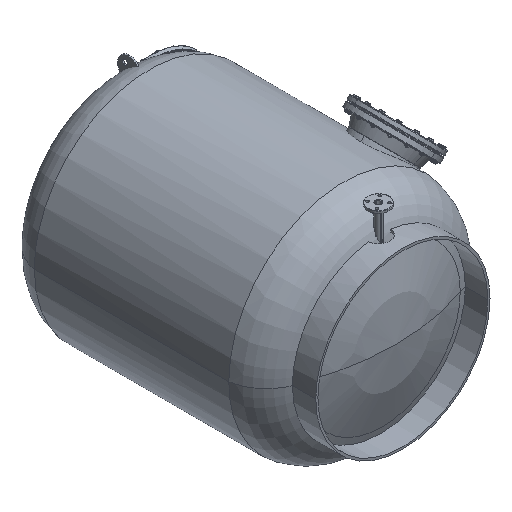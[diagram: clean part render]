
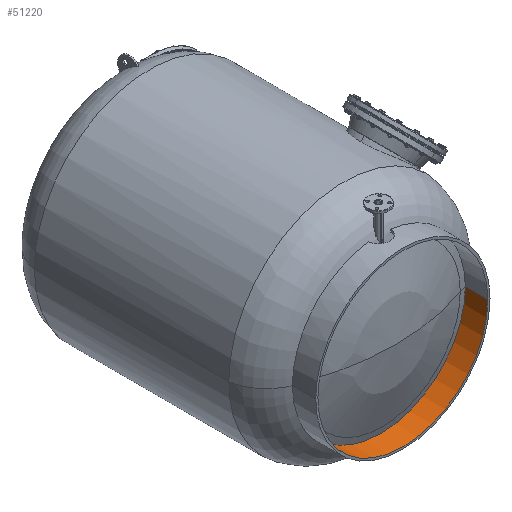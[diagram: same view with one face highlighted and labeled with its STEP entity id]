
A CAD part, isometric view. The second image highlights one B-rep face of the part: STEP entity #51220.
In plain terms, the highlighted cylindrical face has radius 600 mm (diameter 1200 mm), a partial arc.
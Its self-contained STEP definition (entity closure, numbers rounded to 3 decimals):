
#4419 = EDGE_LOOP ( 'NONE', ( #5775, #35330, #15507, #70248 ) ) ;
#5775 = ORIENTED_EDGE ( 'NONE', *, *, #91685, .T. ) ;
#8467 = CARTESIAN_POINT ( 'NONE',  ( 1215., 6.2, -615.057 ) ) ;
#9943 = CARTESIAN_POINT ( 'NONE',  ( 1215., 165.5, -615.057 ) ) ;
#10422 = EDGE_CURVE ( 'NONE', #82633, #63660, #13635, .T. ) ;
#13635 = LINE ( 'NONE', #109020, #96985 ) ;
#14868 = CARTESIAN_POINT ( 'NONE',  ( 615., 165.5, -615.057 ) ) ;
#15507 = ORIENTED_EDGE ( 'NONE', *, *, #33142, .F. ) ;
#16921 = AXIS2_PLACEMENT_3D ( 'NONE', #25699, #87066, #17189 ) ;
#17189 = DIRECTION ( 'NONE',  ( 1., 0., 0. ) ) ;
#25699 = CARTESIAN_POINT ( 'NONE',  ( 615., 6.2, -615.057 ) ) ;
#31987 = EDGE_CURVE ( 'NONE', #88300, #87357, #96762, .T. ) ;
#33142 = EDGE_CURVE ( 'NONE', #87357, #63660, #65867, .T. ) ;
#35330 = ORIENTED_EDGE ( 'NONE', *, *, #10422, .T. ) ;
#36924 = CARTESIAN_POINT ( 'NONE',  ( 15., 165.5, -615.057 ) ) ;
#45109 = DIRECTION ( 'NONE',  ( 0., -1., 0. ) ) ;
#45662 = DIRECTION ( 'NONE',  ( 1., 0., 0. ) ) ;
#51220 = ADVANCED_FACE ( 'NONE', ( #95092 ), #69528, .F. ) ;
#52203 = CARTESIAN_POINT ( 'NONE',  ( 15., 6.2, -615.057 ) ) ;
#58930 = CARTESIAN_POINT ( 'NONE',  ( 1215., 165.5, -615.057 ) ) ;
#61483 = CIRCLE ( 'NONE', #112279, 600. ) ;
#63660 = VERTEX_POINT ( 'NONE', #52203 ) ;
#65867 = CIRCLE ( 'NONE', #16921, 600. ) ;
#65958 = DIRECTION ( 'NONE',  ( 0., 1., 0. ) ) ;
#69205 = VECTOR ( 'NONE', #95654, 1000. ) ;
#69528 = CYLINDRICAL_SURFACE ( 'NONE', #100148, 600. ) ;
#70248 = ORIENTED_EDGE ( 'NONE', *, *, #31987, .F. ) ;
#72322 = CARTESIAN_POINT ( 'NONE',  ( 615., 0., -615.057 ) ) ;
#82633 = VERTEX_POINT ( 'NONE', #36924 ) ;
#83576 = DIRECTION ( 'NONE',  ( 1., 0., 0. ) ) ;
#87066 = DIRECTION ( 'NONE',  ( 0., 1., 0. ) ) ;
#87357 = VERTEX_POINT ( 'NONE', #8467 ) ;
#88300 = VERTEX_POINT ( 'NONE', #58930 ) ;
#90244 = DIRECTION ( 'NONE',  ( 0., -1., 0. ) ) ;
#91685 = EDGE_CURVE ( 'NONE', #88300, #82633, #61483, .T. ) ;
#95092 = FACE_OUTER_BOUND ( 'NONE', #4419, .T. ) ;
#95654 = DIRECTION ( 'NONE',  ( 0., -1., 0. ) ) ;
#96762 = LINE ( 'NONE', #9943, #69205 ) ;
#96985 = VECTOR ( 'NONE', #90244, 1000. ) ;
#100148 = AXIS2_PLACEMENT_3D ( 'NONE', #72322, #45109, #45662 ) ;
#109020 = CARTESIAN_POINT ( 'NONE',  ( 15., 165.5, -615.057 ) ) ;
#112279 = AXIS2_PLACEMENT_3D ( 'NONE', #14868, #65958, #83576 ) ;
